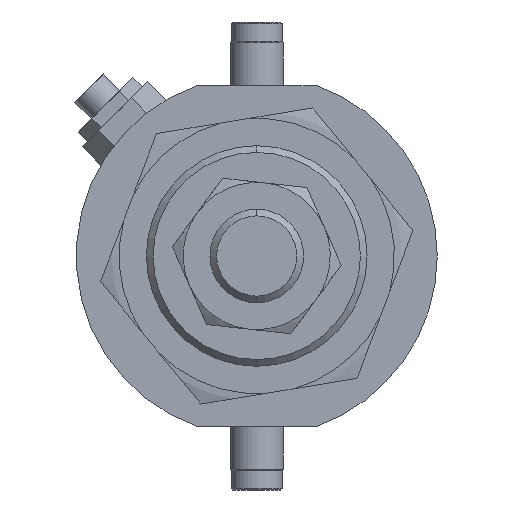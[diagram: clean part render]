
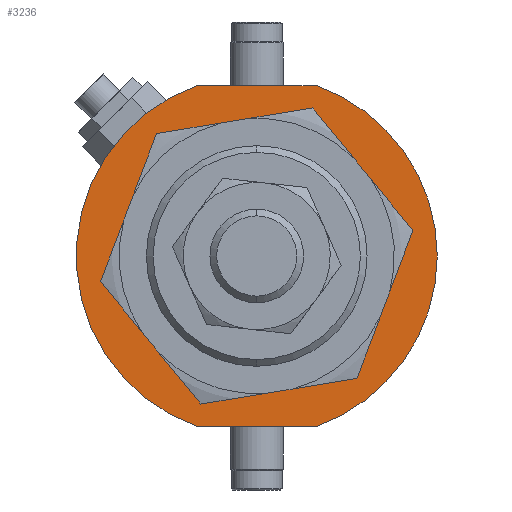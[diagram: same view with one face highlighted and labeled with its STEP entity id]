
A CAD part, left-side view. The second image highlights one B-rep face of the part: STEP entity #3236.
In plain terms, the highlighted planar face has unit normal (-1, 0, 0) as drawn and (0, 1, 0) by its records, which use the part's own axes.
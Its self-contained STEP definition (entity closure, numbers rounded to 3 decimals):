
#153 = CARTESIAN_POINT ( 'NONE',  ( 0., 4.5, 0. ) ) ;
#218 = EDGE_CURVE ( 'NONE', #5530, #419, #4605, .T. ) ;
#235 = AXIS2_PLACEMENT_3D ( 'NONE', #4898, #417, #2100 ) ;
#314 = ORIENTED_EDGE ( 'NONE', *, *, #5495, .F. ) ;
#325 = DIRECTION ( 'NONE',  ( 0., 0., 1. ) ) ;
#417 = DIRECTION ( 'NONE',  ( 0., 1., 0. ) ) ;
#419 = VERTEX_POINT ( 'NONE', #4322 ) ;
#609 = CARTESIAN_POINT ( 'NONE',  ( 0., 4.5, 16.5 ) ) ;
#878 = LINE ( 'NONE', #1503, #2439 ) ;
#974 = EDGE_CURVE ( 'NONE', #5133, #5530, #878, .T. ) ;
#995 = CARTESIAN_POINT ( 'NONE',  ( -25.5, 4.5, 8.874 ) ) ;
#1039 = FACE_OUTER_BOUND ( 'NONE', #5419, .T. ) ;
#1230 = DIRECTION ( 'NONE',  ( 0., 0., 1. ) ) ;
#1245 = AXIS2_PLACEMENT_3D ( 'NONE', #4294, #2102, #3019 ) ;
#1408 = AXIS2_PLACEMENT_3D ( 'NONE', #2159, #1700, #2699 ) ;
#1473 = EDGE_CURVE ( 'NONE', #419, #2206, #5395, .T. ) ;
#1477 = DIRECTION ( 'NONE',  ( 0., 1., 0. ) ) ;
#1503 = CARTESIAN_POINT ( 'NONE',  ( 25.5, 4.5, -8.874 ) ) ;
#1589 = DIRECTION ( 'NONE',  ( 0., 0., -1. ) ) ;
#1640 = CARTESIAN_POINT ( 'NONE',  ( 0., 4.5, 27. ) ) ;
#1687 = ORIENTED_EDGE ( 'NONE', *, *, #974, .T. ) ;
#1700 = DIRECTION ( 'NONE',  ( 0., 1., 0. ) ) ;
#1724 = CARTESIAN_POINT ( 'NONE',  ( 0., 4.5, 0. ) ) ;
#1839 = EDGE_LOOP ( 'NONE', ( #4639, #314 ) ) ;
#1866 = CIRCLE ( 'NONE', #235, 27. ) ;
#1954 = CIRCLE ( 'NONE', #3661, 16.5 ) ;
#2010 = EDGE_CURVE ( 'NONE', #2974, #3204, #3841, .T. ) ;
#2100 = DIRECTION ( 'NONE',  ( 0., 0., 1. ) ) ;
#2102 = DIRECTION ( 'NONE',  ( 0., 1., 0. ) ) ;
#2159 = CARTESIAN_POINT ( 'NONE',  ( 0., 4.5, 0. ) ) ;
#2206 = VERTEX_POINT ( 'NONE', #995 ) ;
#2255 = VERTEX_POINT ( 'NONE', #1640 ) ;
#2306 = ORIENTED_EDGE ( 'NONE', *, *, #1473, .T. ) ;
#2367 = CARTESIAN_POINT ( 'NONE',  ( 0., 4.5, -16.5 ) ) ;
#2439 = VECTOR ( 'NONE', #1589, 1000. ) ;
#2521 = ORIENTED_EDGE ( 'NONE', *, *, #3900, .T. ) ;
#2532 = FACE_BOUND ( 'NONE', #1839, .T. ) ;
#2699 = DIRECTION ( 'NONE',  ( 0., 0., 1. ) ) ;
#2825 = AXIS2_PLACEMENT_3D ( 'NONE', #3778, #3208, #1230 ) ;
#2964 = CARTESIAN_POINT ( 'NONE',  ( -25.5, 4.5, -8.874 ) ) ;
#2974 = VERTEX_POINT ( 'NONE', #609 ) ;
#3019 = DIRECTION ( 'NONE',  ( 0., 0., 1. ) ) ;
#3177 = CARTESIAN_POINT ( 'NONE',  ( 25.5, 4.5, -8.874 ) ) ;
#3178 = ORIENTED_EDGE ( 'NONE', *, *, #5141, .T. ) ;
#3204 = VERTEX_POINT ( 'NONE', #2367 ) ;
#3208 = DIRECTION ( 'NONE',  ( 0., 1., 0. ) ) ;
#3236 = ADVANCED_FACE ( 'NONE', ( #2532, #1039 ), #4017, .T. ) ;
#3661 = AXIS2_PLACEMENT_3D ( 'NONE', #1724, #4888, #3834 ) ;
#3691 = DIRECTION ( 'NONE',  ( 0., 0., 1. ) ) ;
#3778 = CARTESIAN_POINT ( 'NONE',  ( 0., 4.5, 0. ) ) ;
#3801 = CARTESIAN_POINT ( 'NONE',  ( 25.5, 4.5, 8.874 ) ) ;
#3834 = DIRECTION ( 'NONE',  ( 0., 0., 1. ) ) ;
#3841 = CIRCLE ( 'NONE', #2825, 16.5 ) ;
#3900 = EDGE_CURVE ( 'NONE', #2206, #2255, #1866, .T. ) ;
#4003 = AXIS2_PLACEMENT_3D ( 'NONE', #153, #1477, #325 ) ;
#4017 = PLANE ( 'NONE',  #4003 ) ;
#4294 = CARTESIAN_POINT ( 'NONE',  ( 0., 4.5, 0. ) ) ;
#4322 = CARTESIAN_POINT ( 'NONE',  ( -25.5, 4.5, -8.874 ) ) ;
#4496 = VECTOR ( 'NONE', #3691, 1000. ) ;
#4605 = CIRCLE ( 'NONE', #1245, 27. ) ;
#4639 = ORIENTED_EDGE ( 'NONE', *, *, #2010, .F. ) ;
#4749 = CIRCLE ( 'NONE', #1408, 27. ) ;
#4888 = DIRECTION ( 'NONE',  ( 0., 1., 0. ) ) ;
#4898 = CARTESIAN_POINT ( 'NONE',  ( 0., 4.5, 0. ) ) ;
#5065 = ORIENTED_EDGE ( 'NONE', *, *, #218, .T. ) ;
#5133 = VERTEX_POINT ( 'NONE', #3801 ) ;
#5141 = EDGE_CURVE ( 'NONE', #2255, #5133, #4749, .T. ) ;
#5395 = LINE ( 'NONE', #2964, #4496 ) ;
#5419 = EDGE_LOOP ( 'NONE', ( #5065, #2306, #2521, #3178, #1687 ) ) ;
#5495 = EDGE_CURVE ( 'NONE', #3204, #2974, #1954, .T. ) ;
#5530 = VERTEX_POINT ( 'NONE', #3177 ) ;
